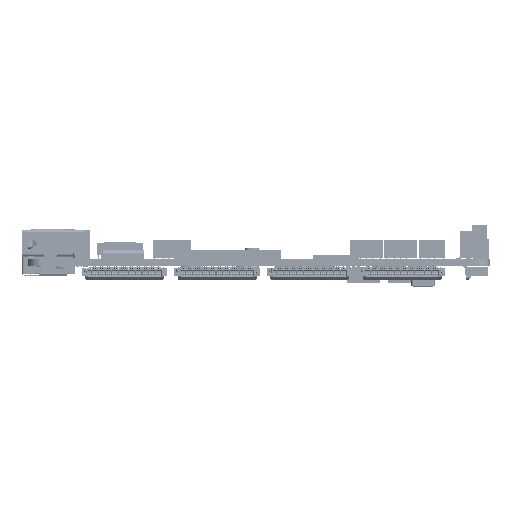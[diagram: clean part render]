
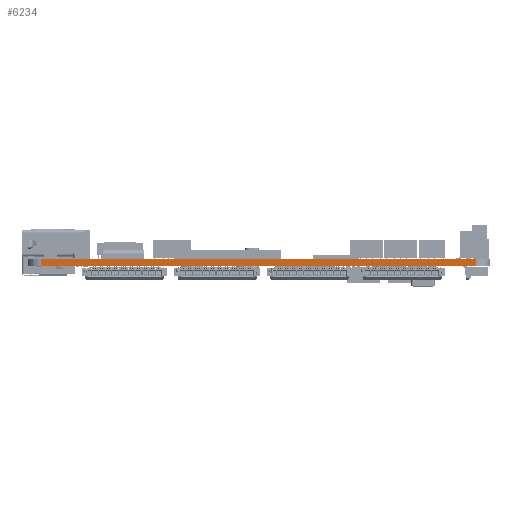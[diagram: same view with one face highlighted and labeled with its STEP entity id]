
A CAD part, left-side view. The second image highlights one B-rep face of the part: STEP entity #6234.
In plain terms, the highlighted planar face has unit normal (-1, 0, 0).
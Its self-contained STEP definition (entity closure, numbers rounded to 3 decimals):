
#2456=DIRECTION('',(0.,-1.,0.));
#2457=VECTOR('',#2456,94.);
#2458=CARTESIAN_POINT('',(-75.,47.,-1.58));
#2459=LINE('',#2458,#2457);
#2463=DIRECTION('',(0.,0.,-1.));
#2464=VECTOR('',#2463,1.56);
#2465=CARTESIAN_POINT('',(-75.,47.,-0.02));
#2466=LINE('',#2465,#2464);
#2470=DIRECTION('',(0.,-1.,0.));
#2471=VECTOR('',#2470,94.);
#2472=CARTESIAN_POINT('',(-75.,47.,-0.02));
#2473=LINE('',#2472,#2471);
#2477=DIRECTION('',(0.,0.,-1.));
#2478=VECTOR('',#2477,1.56);
#2479=CARTESIAN_POINT('',(-75.,-47.,-0.02));
#2480=LINE('',#2479,#2478);
#3581=CARTESIAN_POINT('',(-75.,47.,-0.02));
#3582=CARTESIAN_POINT('',(-75.,-47.,-0.02));
#3583=VERTEX_POINT('',#3581);
#3584=VERTEX_POINT('',#3582);
#3833=CARTESIAN_POINT('',(-75.,47.,-1.58));
#3834=CARTESIAN_POINT('',(-75.,-47.,-1.58));
#3835=VERTEX_POINT('',#3833);
#3836=VERTEX_POINT('',#3834);
#6220=CARTESIAN_POINT('',(-75.,50.,0.));
#6221=DIRECTION('',(-1.,0.,0.));
#6222=DIRECTION('',(0.,-1.,0.));
#6223=AXIS2_PLACEMENT_3D('',#6220,#6221,#6222);
#6224=PLANE('',#6223);
#6225=ORIENTED_EDGE('',*,*,#6167,.F.);
#6227=ORIENTED_EDGE('',*,*,#6226,.F.);
#6229=ORIENTED_EDGE('',*,*,#6228,.T.);
#6231=ORIENTED_EDGE('',*,*,#6230,.T.);
#6232=EDGE_LOOP('',(#6225,#6227,#6229,#6231));
#6233=FACE_OUTER_BOUND('',#6232,.F.);
#6167=EDGE_CURVE('',#3835,#3836,#2459,.T.);
#6226=EDGE_CURVE('',#3583,#3835,#2466,.T.);
#6228=EDGE_CURVE('',#3583,#3584,#2473,.T.);
#6230=EDGE_CURVE('',#3584,#3836,#2480,.T.);
#6234=ADVANCED_FACE('',(#6233),#6224,.T.);
